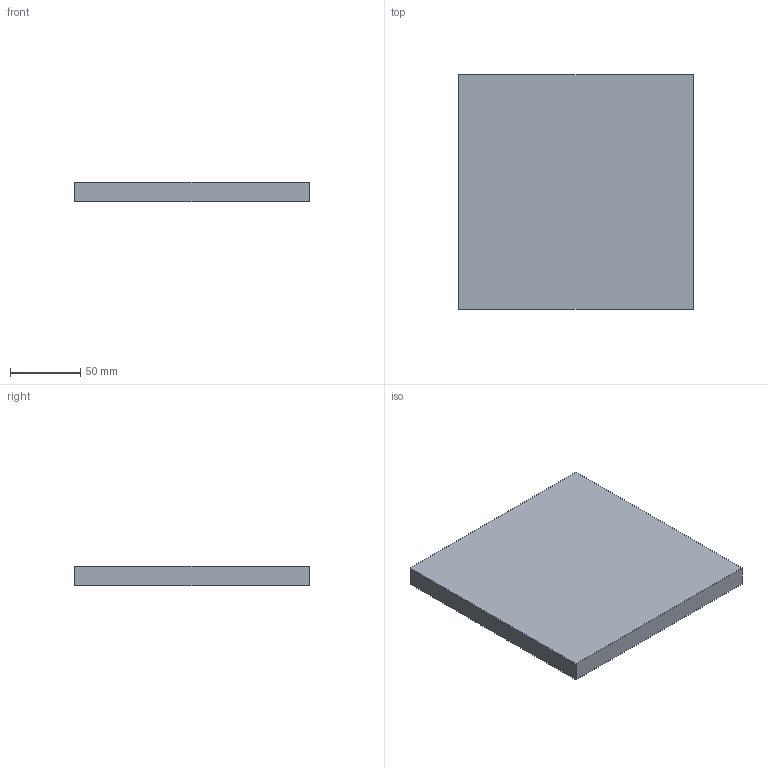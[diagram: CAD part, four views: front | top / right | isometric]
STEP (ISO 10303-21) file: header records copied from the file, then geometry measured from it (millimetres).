
FILE_DESCRIPTION (( 'STEP AP203' ), '1' );
FILE_NAME ('M13FPF-EU3.STEP', '2021-06-10T08:10:00', ( '' ), ( '' ), 'SwSTEP 2.0', 'SolidWorks 2019', '' );
FILE_SCHEMA (( 'CONFIG_CONTROL_DESIGN' ));
Length unit declared in the file: millimetre
Products named in the file (1): M13FPF-EU3
Bounding box: 167.5 x 167.5 x 14 mm (x, y, z)
Volume: 392787.5 mm3; surface area: 65492.5 mm2
Topology: 1 solids, 1 shells, 6 faces, 12 edges, 8 vertices
Faces by surface type: plane 6
Entity records: 233 total; most frequent: CARTESIAN_POINT 27, DIRECTION 26, ORIENTED_EDGE 24, LINE 12, VECTOR 12, EDGE_CURVE 12, VERTEX_POINT 8, PERSON_AND_ORGANIZATION 8
